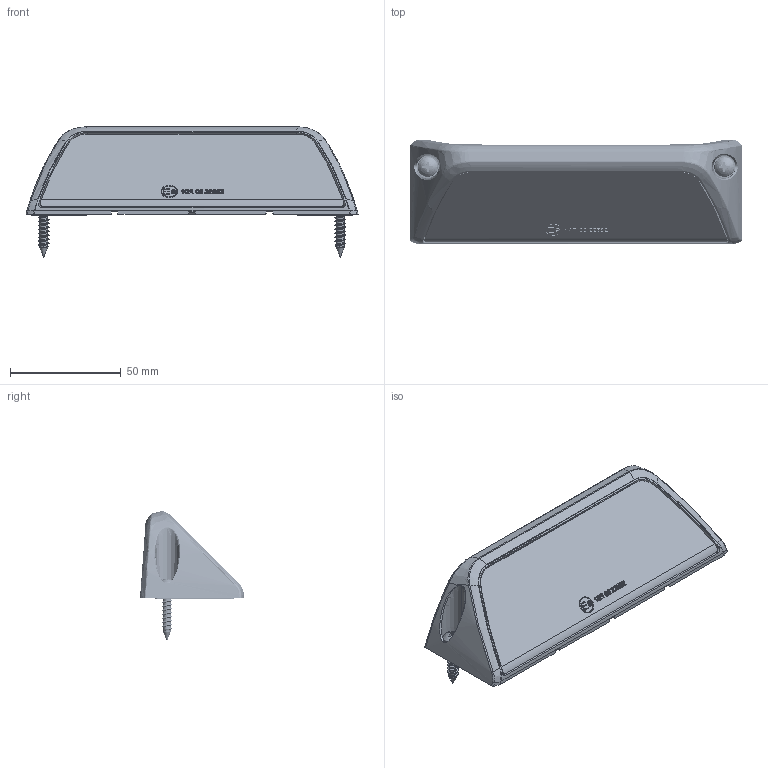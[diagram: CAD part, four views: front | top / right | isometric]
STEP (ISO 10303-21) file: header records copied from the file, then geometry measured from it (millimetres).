
FILE_DESCRIPTION((''),'2;1');
FILE_NAME('CJD-ASSY-02_ASM','2021-04-02T',('Administrator'),(''),'CREO PARAMETRIC BY PTC INC, 2014350','CREO PARAMETRIC BY PTC INC, 2014350','');
FILE_SCHEMA(('CONFIG_CONTROL_DESIGN'));
Length unit declared in the file: millimetre
Products named in the file (7): CJD-HK-02; M3X6-CT; XT-001; CJD-PCMB-02; CJD-JD-02; ST4_8-25-PT-01; CJD-ASSY-02_ASM
Assembly tree (8 placements, depth 2):
  CJD-ASSY-02_ASM
    CJD-HK-02
    M3X6-CT
    XT-001
    CJD-PCMB-02
    CJD-JD-02  x2
    ST4_8-25-PT-01  x2
Bounding box: 150 x 47 x 58.8 mm (x, y, z)
Volume: 95158.4 mm3; surface area: 54245.6 mm2
Topology: 8 solids, 8 shells, 5068 faces, 17875 edges, 9445 vertices
Faces by surface type: sphere 3610, bspline 683, plane 367, cylinder 212, cone 76, extrusion 71, torus 45, revolution 4
Entity records: 222119 total; most frequent: CARTESIAN_POINT 108104, ORIENTED_EDGE 28452, DIRECTION 18304, EDGE_CURVE 14226, VERTEX_POINT 9297, B_SPLINE_CURVE_WITH_KNOTS 8896, AXIS2_PLACEMENT_3D 8574, EDGE_LOOP 5033
